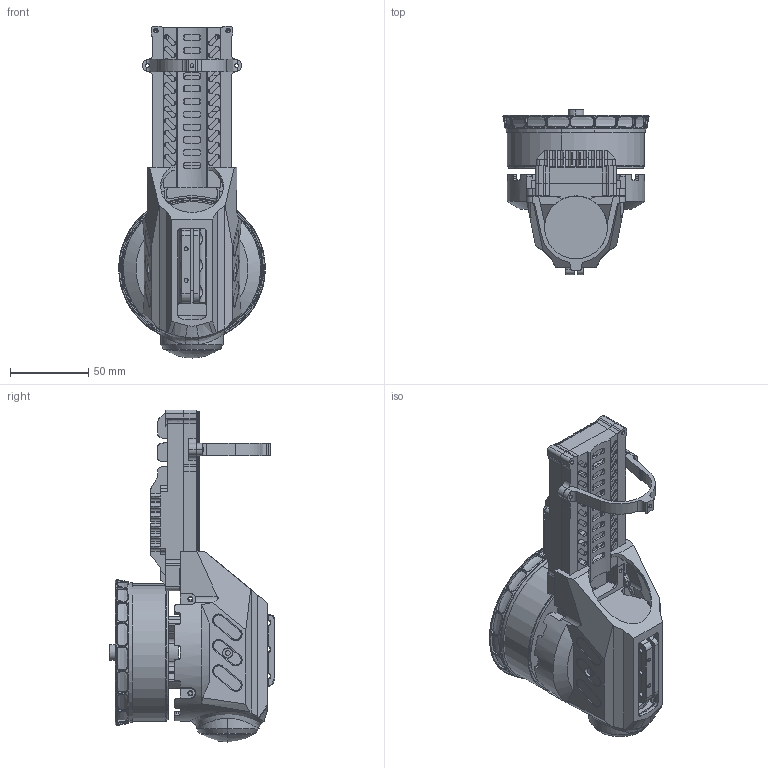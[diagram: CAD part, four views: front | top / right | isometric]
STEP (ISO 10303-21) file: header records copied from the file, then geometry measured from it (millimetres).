
FILE_DESCRIPTION (( 'STEP AP214' ), '1' );
FILE_NAME ('A8三维图.STEP', '2024-07-03T04:03:19', ( '' ), ( '' ), 'SwSTEP 2.0', 'SolidWorks 2022', '' );
FILE_SCHEMA (( 'AUTOMOTIVE_DESIGN' ));
Length unit declared in the file: millimetre
Products named in the file (1): A8三维图
Bounding box: 93.21 x 105.5 x 211.54 mm (x, y, z)
Volume: 383278.7 mm3; surface area: 200953.3 mm2
Topology: 57 solids, 57 shells, 3422 faces, 9245 edges, 5980 vertices
Faces by surface type: plane 1696, cylinder 1177, cone 281, bspline 217, torus 37, sphere 14
Entity records: 168872 total; most frequent: CARTESIAN_POINT 46147, ORIENTED_EDGE 18418, DIRECTION 16599, EDGE_CURVE 9209, VERTEX_POINT 5980, AXIS2_PLACEMENT_3D 5682, LINE 5235, VECTOR 5235
